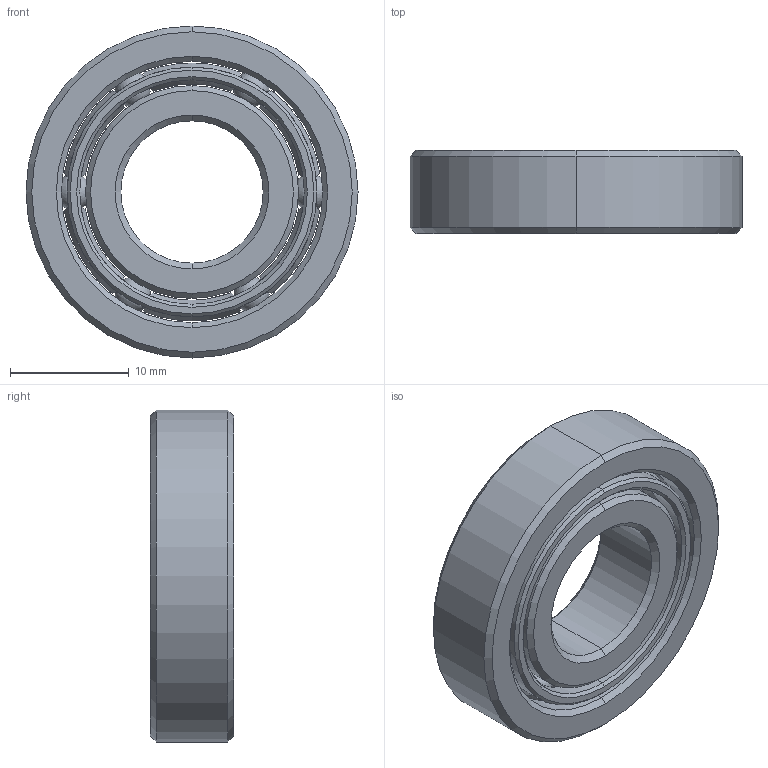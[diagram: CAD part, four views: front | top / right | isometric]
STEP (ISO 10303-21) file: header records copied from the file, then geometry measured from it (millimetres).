
FILE_DESCRIPTION (( 'STEP AP214' ), '1' );
FILE_NAME ('16001 BEARING V3 STYLE.STEP', '2022-02-15T23:37:14', ( '' ), ( '' ), 'SwSTEP 2.0', 'SolidWorks 2019', '' );
FILE_SCHEMA (( 'AUTOMOTIVE_DESIGN' ));
Length unit declared in the file: millimetre
Products named in the file (1): 16001 BEARING V3 STYLE
Bounding box: 28 x 7 x 28 mm (x, y, z)
Volume: 2964.6 mm3; surface area: 3631.9 mm2
Topology: 10 solids, 10 shells, 252 faces, 706 edges, 436 vertices
Faces by surface type: cone 116, sphere 60, cylinder 52, plane 18, torus 6
Entity records: 8997 total; most frequent: CARTESIAN_POINT 2301, ORIENTED_EDGE 1304, DIRECTION 1266, EDGE_CURVE 652, AXIS2_PLACEMENT_3D 587, VERTEX_POINT 418, CIRCLE 334, EDGE_LOOP 258
